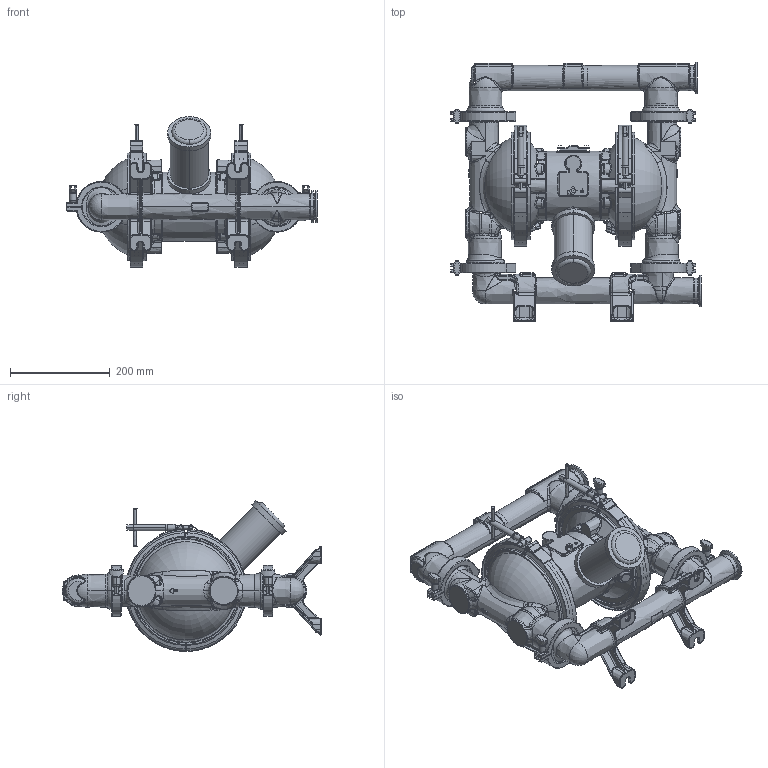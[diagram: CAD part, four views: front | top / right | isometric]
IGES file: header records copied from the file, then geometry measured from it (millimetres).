
Start section:  PTC IGES file: fa2244-en-d.igs
Global section: file name: fa2244-en-d.igs; native system: Creo Parametric by PTC Inc.; preprocessor: 2021072; author: qtmwp1; organization: Unknown; date: 20220214.144426; units: inch
Bounding box: 502.96 x 521.61 x 302.81 mm (x, y, z)
Surface area: 1279724.8 mm2 (no closed solid volume)
Topology: 0 solids, 0 shells, 2086 faces, 10225 edges, 10224 vertices
Faces by surface type: revolution 1197, bspline 889
